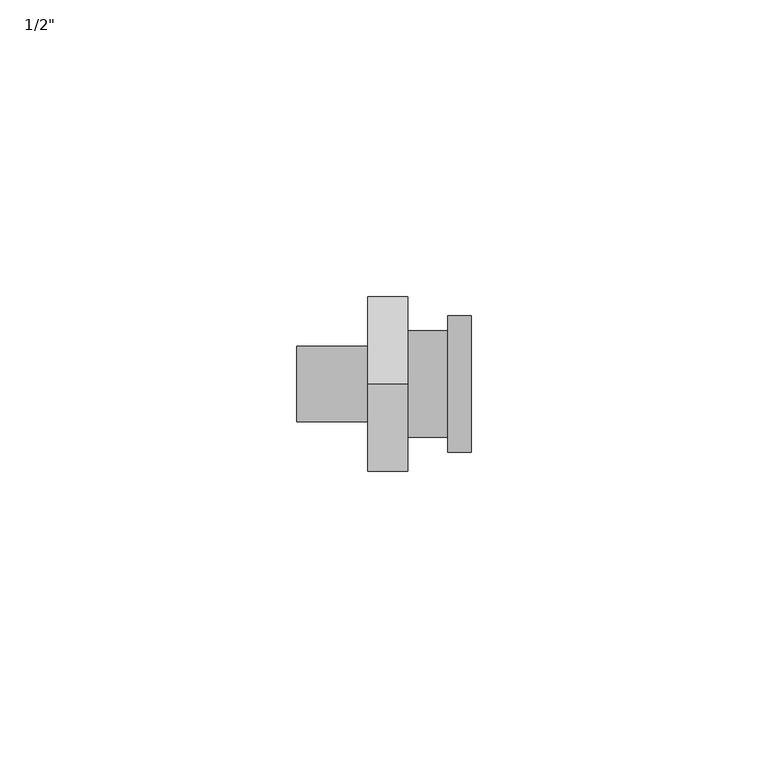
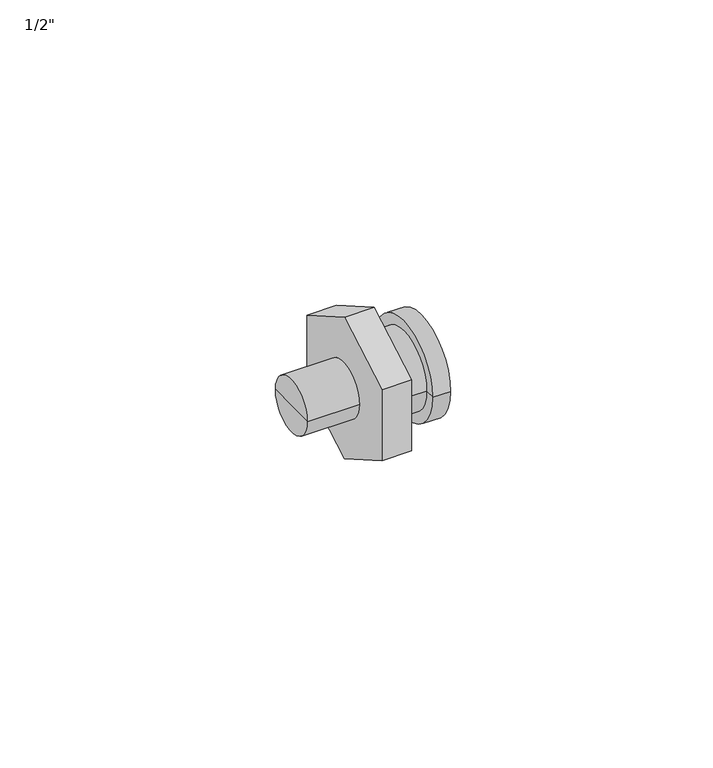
"""IFC4 building model written with IfcOpenShell, lengths in millimetres: pipe fitting geometry."""

from ifc_helpers import new_model, si_unit, frame, origin, place, context, project, spatial, polyline, circle_curve, outline, extrude, source, transform, mapped, element, save
from ifc_brep_helpers import plane_surface, cylinder_surface, advanced_brep


def pipe_fitting_8a7176bf(model_context):
    return source(origin(), model_context, "Body", "SolidModel", [
        extrude(outline(polyline([(0.0, -17.0318329), (-14.75, -8.5159165), (-14.75, 8.5159165), (0.0, 17.0318329), (14.75, 8.5159165), (14.75, -8.5159165), (0.0, -17.0318329)])), frame((0.0, 0.0, 0.0), z_axis=(1.0, 0.0, 0.0), x_axis=(0.0, 1.0, 0.0)), (0.0, 0.0, 1.0), 6.75),
        advanced_brep(
        [(17.5, -11.5, 0.0), (17.5, 11.5, 0.0), (17.5, 0.0, 0.0), (6.75, -9.0, 0.0), (6.75, 9.0, 0.0), (13.5, 9.0, 0.0), (13.5, -9.0, 0.0), (6.75, 0.0, 0.0), (13.5, -11.5, 0.0), (13.5, 11.5, 0.0)],
        [
            (0, 1, circle_curve(frame((17.5, 0.0, 0.0), z_axis=(1.0, 0.0, 0.0), x_axis=(0.0, 1.0, 0.0)), 11.5)),
            (1, 2),
            (2, 0),
            (1, 0, circle_curve(frame((17.5, 0.0, 0.0), z_axis=(1.0, 0.0, 0.0), x_axis=(0.0, 1.0, 0.0)), 11.5)),
            (3, 4, circle_curve(frame((6.75, 0.0, 0.0), z_axis=(1.0, 0.0, 0.0), x_axis=(0.0, 1.0, 0.0)), 9.0)),
            (4, 5),
            (5, 6, circle_curve(frame((13.5, 0.0, 0.0), z_axis=(-1.0, 0.0, 0.0), x_axis=(0.0, 1.0, 0.0)), 9.0)),
            (6, 3),
            (4, 3, circle_curve(frame((6.75, 0.0, 0.0), z_axis=(1.0, 0.0, 0.0), x_axis=(0.0, 1.0, 0.0)), 9.0)),
            (6, 5, circle_curve(frame((13.5, 0.0, 0.0), z_axis=(-1.0, 0.0, 0.0), x_axis=(0.0, 1.0, 0.0)), 9.0)),
            (7, 4),
            (3, 7),
            (8, 9, circle_curve(frame((13.5, 0.0, 0.0), z_axis=(1.0, 0.0, 0.0), x_axis=(0.0, 1.0, 0.0)), 11.5)),
            (9, 1),
            (0, 8),
            (9, 8, circle_curve(frame((13.5, 0.0, 0.0), z_axis=(1.0, 0.0, 0.0), x_axis=(0.0, 1.0, 0.0)), 11.5)),
            (5, 9),
            (8, 6),
        ],
        [
            plane_surface(frame((17.5, 0.0, 0.0), z_axis=(1.0, 0.0, 0.0), x_axis=(0.0, 1.0, 0.0))),
            cylinder_surface(frame((2001.5, 0.0, 0.0), z_axis=(-1.0, 0.0, 0.0), x_axis=(0.0, 1.0, 0.0)), 9.0),
            plane_surface(frame((6.75, 0.0, 0.0), z_axis=(-1.0, 0.0, 0.0), x_axis=(0.0, 1.0, 0.0))),
            cylinder_surface(frame((2001.5, 0.0, 0.0), z_axis=(-1.0, 0.0, 0.0), x_axis=(0.0, 1.0, 0.0)), 11.5),
            plane_surface(frame((13.5, 0.0, 0.0), z_axis=(-1.0, 0.0, 0.0), x_axis=(0.0, 1.0, 0.0))),
        ],
        [
            (0, [[1, 2, 3]]),
            (0, [[4, -3, -2]]),
            (1, [[5, 6, 7, 8]]),
            (1, [[9, -8, 10, -6]]),
            (2, [[11, -5, 12]]),
            (2, [[-12, -9, -11]]),
            (3, [[13, 14, -1, 15]]),
            (3, [[16, -15, -4, -14]]),
            (4, [[-7, 17, -13, 18]]),
            (4, [[-10, -18, -16, -17]]),
        ],
    ),
        advanced_brep(
        [(0.0, -6.35, 0.0), (0.0, 6.35, 0.0), (0.0, 0.0, 0.0), (-12.0, -6.35, 0.0), (-12.0, 6.35, 0.0), (-12.0, 0.0, 0.0)],
        [
            (0, 1, circle_curve(frame((0.0, 0.0, 0.0), z_axis=(1.0, 0.0, 0.0), x_axis=(0.0, 1.0, 0.0)), 6.35)),
            (1, 2),
            (2, 0),
            (1, 0, circle_curve(frame((0.0, 0.0, 0.0), z_axis=(1.0, 0.0, 0.0), x_axis=(0.0, 1.0, 0.0)), 6.35)),
            (3, 4, circle_curve(frame((-12.0, 0.0, 0.0), z_axis=(1.0, 0.0, 0.0), x_axis=(0.0, 1.0, 0.0)), 6.35)),
            (4, 1),
            (0, 3),
            (4, 3, circle_curve(frame((-12.0, 0.0, 0.0), z_axis=(1.0, 0.0, 0.0), x_axis=(0.0, 1.0, 0.0)), 6.35)),
            (5, 4),
            (3, 5),
        ],
        [
            plane_surface(frame((0.0, 0.0, 0.0), z_axis=(1.0, 0.0, 0.0), x_axis=(0.0, 1.0, 0.0))),
            cylinder_surface(frame((2001.5, 0.0, 0.0), z_axis=(-1.0, 0.0, 0.0), x_axis=(0.0, 1.0, 0.0)), 6.35),
            plane_surface(frame((-12.0, 0.0, 0.0), z_axis=(-1.0, 0.0, 0.0), x_axis=(0.0, 1.0, 0.0))),
        ],
        [
            (0, [[1, 2, 3]]),
            (0, [[4, -3, -2]]),
            (1, [[5, 6, -1, 7]]),
            (1, [[8, -7, -4, -6]]),
            (2, [[9, -5, 10]]),
            (2, [[-10, -8, -9]]),
        ],
    ),
    ])


if __name__ == "__main__":
    model = new_model("IFC4")
    model_context = context("Model", 3, world=origin())
    ifc_project = project(units=[si_unit("LENGTHUNIT", "METRE", prefix="MILLI")], contexts=[model_context])
    site = spatial("IfcSite", under=ifc_project)
    building = spatial("IfcBuilding", under=site)
    placement = place(None, origin())
    pipe_fitting_shape = pipe_fitting_8a7176bf(model_context)
    element("IfcPipeFitting", 1, ObjectType="KAN-therm Push złączka mosiężna z gw : 1/2\"", at=placement, inside=building, context=model_context, shape_type="MappedRepresentation", body=[
        mapped(pipe_fitting_shape, transform((0.0, 0.0, 0.0), x_axis=(1.0, 0.0, 0.0), y_axis=(0.0, 1.0, 0.0), z_axis=(0.0, 0.0, 1.0))),
    ])
    save(model, "model.ifc")
